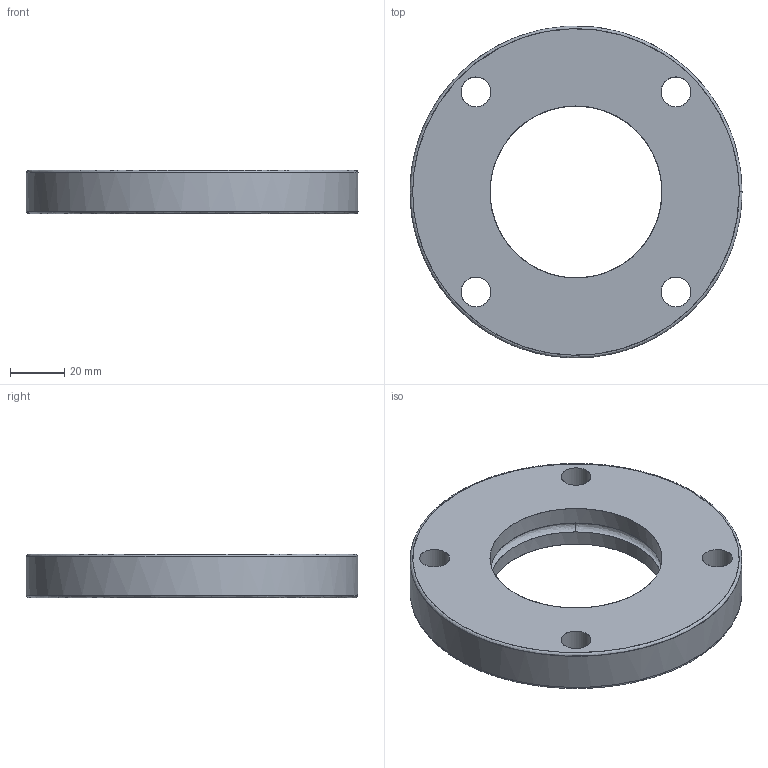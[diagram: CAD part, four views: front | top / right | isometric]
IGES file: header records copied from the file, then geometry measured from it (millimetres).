
Start section: VISI Layer Mapping Iges    VISI  0      LAYER_EMPTY  1      wwww  7      W_PD700  8      S_PD700  10     W_PD1000  11     S_PD1000  13     W_PD2000  14     S_PD2000  16     W_PD3000  17     S_PD3000  19     W_PD4000  20     S_PD4000  22     W_PD7000  23     S_PD7000  28     W_350  29     MS-350  30     MC-350  31     MP-350  32     MB-350  33     MH-350  34     MK-350  35     MPL-350  39     W_500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
Global section: file name: L:\cam_backup\钎霖前_沥府\颇况咆\mount_______\1500\MC-1500.igs; native system: VISI 16.0; preprocessor: 2.0; author: 11; organization: 0; date: 500.; units: mil
Bounding box: 122 x 121.91 x 16 mm (x, y, z)
Surface area: 28062.6 mm2 (no closed solid volume)
Topology: 0 solids, 0 shells, 12 faces, 302 edges, 294 vertices
Faces by surface type: bspline 12
